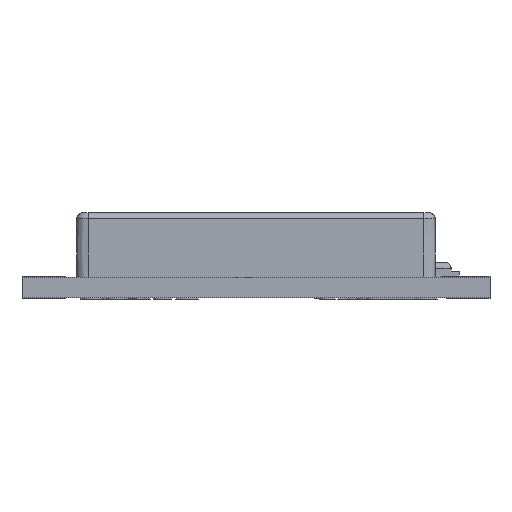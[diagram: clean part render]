
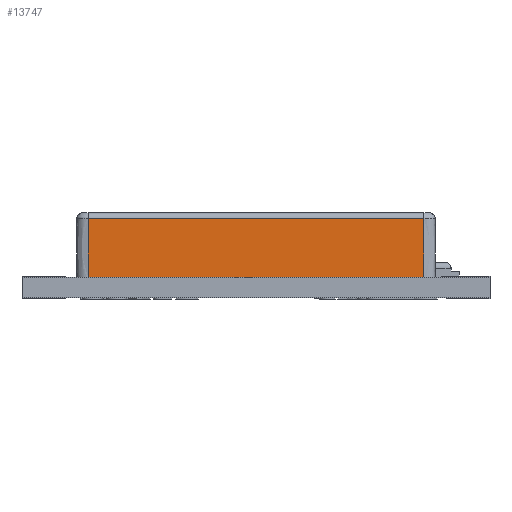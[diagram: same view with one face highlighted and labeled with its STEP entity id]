
A CAD part, front view. The second image highlights one B-rep face of the part: STEP entity #13747.
In plain terms, the highlighted planar face has unit normal (0, -1, 0).
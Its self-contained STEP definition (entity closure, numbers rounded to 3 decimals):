
#13747=ADVANCED_FACE('',(#35349),#35351,.T.);
#35349=FACE_BOUND('',#35350,.T.);
#35350=EDGE_LOOP('',(#55868,#55869,#55870,#55871));
#35351=PLANE('',#35352);
#35352=AXIS2_PLACEMENT_3D('',#35353,#35354,#35355);
#35353=CARTESIAN_POINT('',(-5.739,-10.832,0.7));
#35354=DIRECTION('',(0.,-1.,0.));
#35355=DIRECTION('',(1.,0.,0.));
#55868=ORIENTED_EDGE('',*,*,#69958,.F.);
#55869=ORIENTED_EDGE('',*,*,#69959,.F.);
#55870=ORIENTED_EDGE('',*,*,#69664,.T.);
#55871=ORIENTED_EDGE('',*,*,#69957,.T.);
#69664=EDGE_CURVE('',#80140,#80138,#80141,.T.);
#69957=EDGE_CURVE('',#80138,#80581,#80583,.T.);
#69958=EDGE_CURVE('',#80584,#80581,#80585,.T.);
#69959=EDGE_CURVE('',#80140,#80584,#80586,.T.);
#80138=VERTEX_POINT('',#102785);
#80140=VERTEX_POINT('',#102790);
#80141=LINE('',#102791,#102792);
#80581=VERTEX_POINT('',#104143);
#80583=LINE('',#104148,#104149);
#80584=VERTEX_POINT('',#104151);
#80585=LINE('',#104152,#104153);
#80586=LINE('',#104155,#104156);
#102785=CARTESIAN_POINT('',(5.739,-10.832,0.7));
#102790=CARTESIAN_POINT('',(-5.739,-10.832,0.7));
#102791=CARTESIAN_POINT('',(-5.739,-10.832,0.7));
#102792=VECTOR('',#102793,1.);
#102793=DIRECTION('',(1.,0.,0.));
#104143=CARTESIAN_POINT('',(5.739,-10.832,2.7));
#104148=CARTESIAN_POINT('',(5.739,-10.832,0.7));
#104149=VECTOR('',#104150,1.);
#104150=DIRECTION('',(0.,0.,1.));
#104151=CARTESIAN_POINT('',(-5.739,-10.832,2.7));
#104152=CARTESIAN_POINT('',(-5.739,-10.832,2.7));
#104153=VECTOR('',#104154,1.);
#104154=DIRECTION('',(1.,0.,0.));
#104155=CARTESIAN_POINT('',(-5.739,-10.832,0.7));
#104156=VECTOR('',#104157,1.);
#104157=DIRECTION('',(0.,0.,1.));
